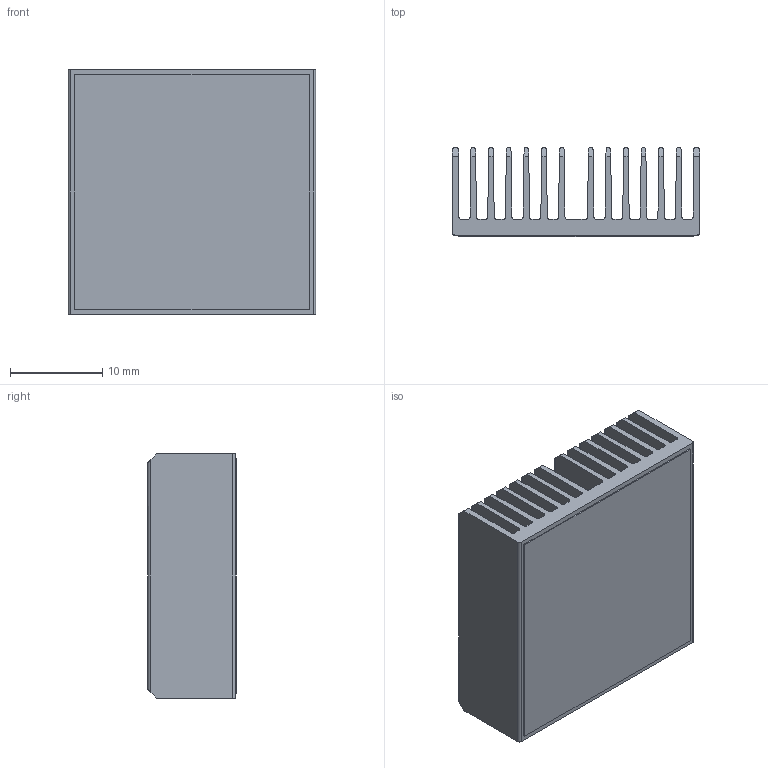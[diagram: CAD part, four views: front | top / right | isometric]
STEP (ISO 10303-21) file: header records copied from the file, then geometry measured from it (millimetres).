
FILE_DESCRIPTION (( 'STEP AP214' ), '1' );
FILE_NAME ('INL27001-10-1.7.STEP', '2023-02-21T21:33:37', ( '' ), ( '' ), 'SwSTEP 2.0', 'SolidWorks 2020', '' );
FILE_SCHEMA (( 'AUTOMOTIVE_DESIGN' ));
Length unit declared in the file: millimetre
Products named in the file (1): INL27001-10-1.7
Bounding box: 26.8 x 9.63 x 26.5 mm (x, y, z)
Volume: 3062.9 mm3; surface area: 8569.5 mm2
Topology: 2 solids, 2 shells, 120 faces, 348 edges, 232 vertices
Faces by surface type: plane 78, cylinder 42
Entity records: 5291 total; most frequent: CARTESIAN_POINT 785, ORIENTED_EDGE 696, DIRECTION 618, EDGE_CURVE 348, LINE 264, VECTOR 264, VERTEX_POINT 232, AXIS2_PLACEMENT_3D 177
